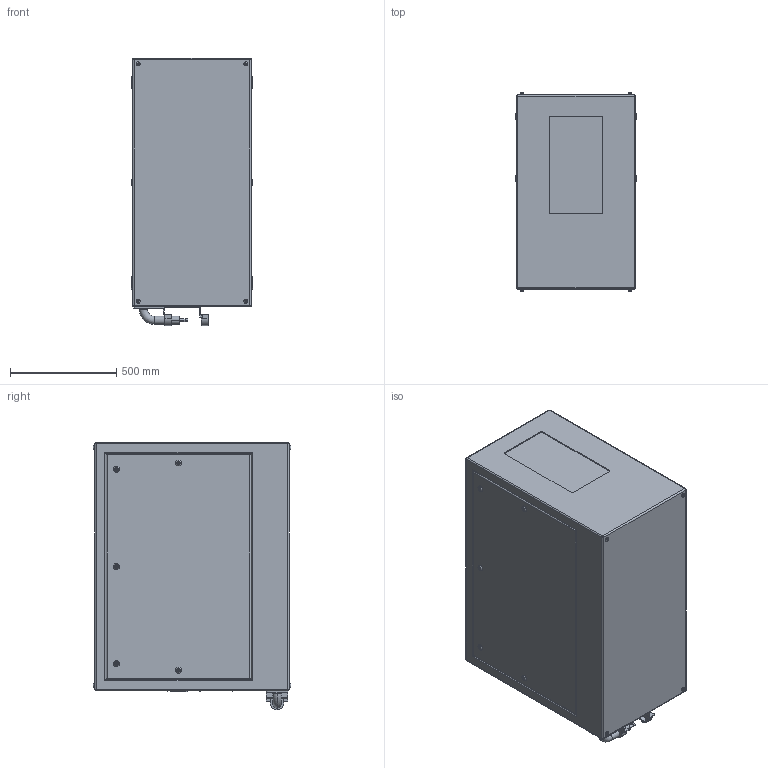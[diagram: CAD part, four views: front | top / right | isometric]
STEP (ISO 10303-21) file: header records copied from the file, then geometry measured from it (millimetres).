
FILE_DESCRIPTION (( 'STEP AP214' ), '1' );
FILE_NAME ('Oasis 59.202.P R02.STEP', '2022-09-12T23:37:21', ( '' ), ( '' ), 'SwSTEP 2.0', 'SolidWorks 2020', '' );
FILE_SCHEMA (( 'AUTOMOTIVE_DESIGN' ));
Length unit declared in the file: inch
Products named in the file (1): Oasis 59.202.P R02
Bounding box: 571.5 x 931.67 x 1257.3 mm (x, y, z)
Volume: 596206715.9 mm3; surface area: 5013540.9 mm2
Topology: 3 solids, 9 shells, 540 faces, 1233 edges, 782 vertices
Faces by surface type: plane 297, cylinder 185, torus 50, bspline 8
Entity records: 20635 total; most frequent: CARTESIAN_POINT 3068, DIRECTION 2691, ORIENTED_EDGE 2450, EDGE_CURVE 1225, AXIS2_PLACEMENT_3D 965, VERTEX_POINT 782, VECTOR 761, LINE 761
